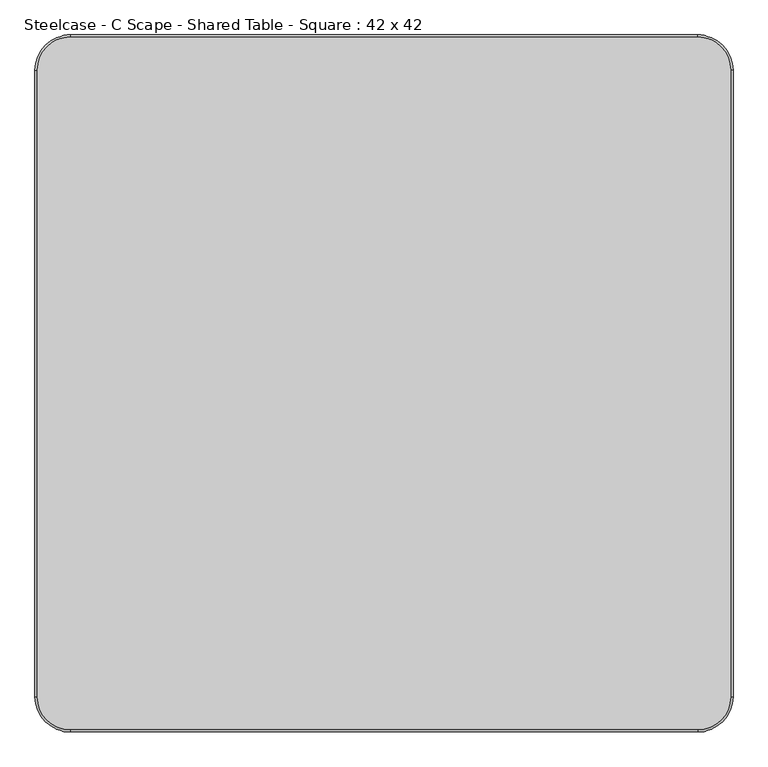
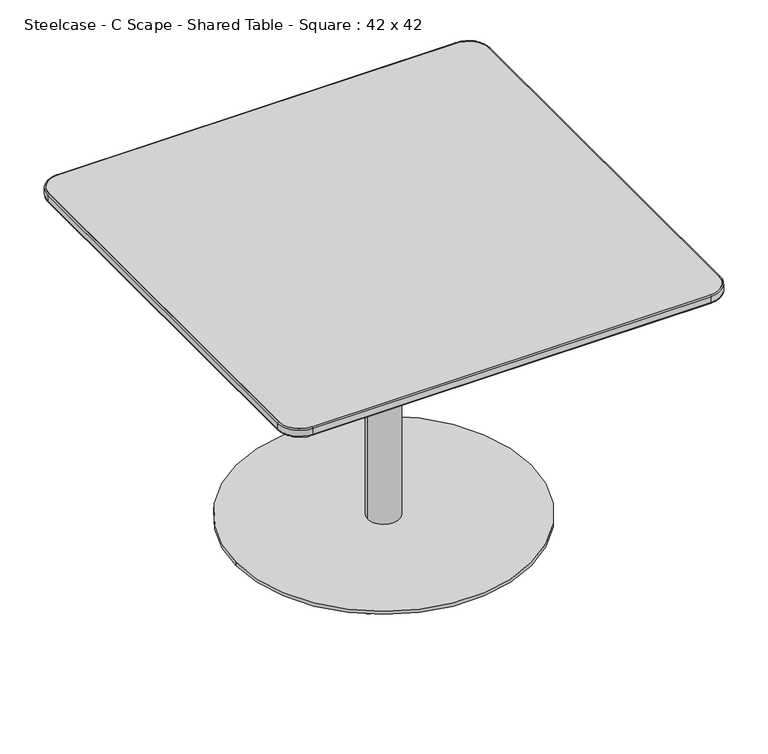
"""IFC4 building model written with IfcOpenShell, lengths in millimetres: furniture geometry, Steelcase - C Scape - Shared Table - Square : 42 x 42."""

from ifc_helpers import new_model, si_unit, point, frame, frame_2d, origin, origin_with_axes, place, context, project, spatial, polyline, circle_curve, ellipse_curve, trimmed, segment, composite_curve, outline, extrude, source, transform, mapped, element, save
from ifc_brep_helpers import plane_surface, cylinder_surface, revolved_surface, spline_surface, advanced_brep


def steelcase_c_scape_shared_table_square_42_x_42_29b82b3a(model_context):
    return source(origin(), model_context, "Body", "SolidModel", [
        extrude(outline(composite_curve([segment(trimmed(circle_curve(frame_2d((538.1169393, -206.3887078)), 19.05), [point((519.0669393, -206.3887078))], [point((557.1669393, -206.3887078))], False, "CARTESIAN"), True, "CONTINUOUS"), segment(trimmed(circle_curve(frame_2d((538.1169393, -206.3887078)), 19.05), [point((557.1669393, -206.3887078))], [point((519.0669393, -206.3887078))], False, "CARTESIAN"), True, "CONTINUOUS")], self_intersect=False)), origin_with_axes(), (0.0, 0.0, 1.0), 4.7752),
        extrude(outline(composite_curve([segment(trimmed(circle_curve(frame_2d((849.5274141, -431.9223889)), 19.05), [point((830.4774141, -431.9223889))], [point((868.5774141, -431.9223889))], False, "CARTESIAN"), True, "CONTINUOUS"), segment(trimmed(circle_curve(frame_2d((849.5274141, -431.9223889)), 19.05), [point((868.5774141, -431.9223889))], [point((830.4774141, -431.9223889))], False, "CARTESIAN"), True, "CONTINUOUS")], self_intersect=False)), origin_with_axes(), (0.0, 0.0, 1.0), 4.7752),
        extrude(outline(composite_curve([segment(trimmed(circle_curve(frame_2d((217.2725859, -431.9223889)), 19.05), [point((198.2225859, -431.9223889))], [point((236.3225859, -431.9223889))], False, "CARTESIAN"), True, "CONTINUOUS"), segment(trimmed(circle_curve(frame_2d((217.2725859, -431.9223889)), 19.05), [point((236.3225859, -431.9223889))], [point((198.2225859, -431.9223889))], False, "CARTESIAN"), True, "CONTINUOUS")], self_intersect=False)), origin_with_axes(), (0.0, 0.0, 1.0), 4.7752),
        extrude(outline(composite_curve([segment(trimmed(circle_curve(frame_2d((343.3814105, -801.3440092)), 19.05), [point((324.3314105, -801.3440092))], [point((362.4314105, -801.3440092))], False, "CARTESIAN"), True, "CONTINUOUS"), segment(trimmed(circle_curve(frame_2d((343.3814105, -801.3440092)), 19.05), [point((362.4314105, -801.3440092))], [point((324.3314105, -801.3440092))], False, "CARTESIAN"), True, "CONTINUOUS")], self_intersect=False)), origin_with_axes(), (0.0, 0.0, 1.0), 4.7752),
        extrude(outline(composite_curve([segment(trimmed(circle_curve(frame_2d((723.4185895, -801.3440092)), 19.05), [point((704.3685895, -801.3440092))], [point((742.4685895, -801.3440092))], False, "CARTESIAN"), True, "CONTINUOUS"), segment(trimmed(circle_curve(frame_2d((723.4185895, -801.3440092)), 19.05), [point((742.4685895, -801.3440092))], [point((704.3685895, -801.3440092))], False, "CARTESIAN"), True, "CONTINUOUS")], self_intersect=False)), origin_with_axes(), (0.0, 0.0, 1.0), 4.7752),
        extrude(outline(polyline([(443.2461817, -627.0451349), (443.2461817, -449.2450865), (621.0460848, -449.2450865), (621.0460848, -627.0451349), (443.2461817, -627.0451349)])), frame((0.0, 0.0, 686.0031853), z_axis=(0.0, 0.0, 1.0), x_axis=(1.0, 0.0, 0.0)), (0.0, 0.0, 1.0), 9.4488147),
        extrude(outline(composite_curve([segment(trimmed(circle_curve(frame_2d((532.60625, -533.4)), 38.1), [point((494.50625, -533.4))], [point((570.70625, -533.4))], False, "CARTESIAN"), True, "CONTINUOUS"), segment(trimmed(circle_curve(frame_2d((532.60625, -533.4)), 38.1), [point((570.70625, -533.4))], [point((494.50625, -533.4))], False, "CARTESIAN"), True, "CONTINUOUS")], self_intersect=False)), frame((0.0, 0.0, 12.7), z_axis=(0.0, 0.0, 1.0), x_axis=(1.0, 0.0, 0.0)), (0.0, 0.0, 1.0), 673.3031853),
        extrude(outline(composite_curve([segment(trimmed(circle_curve(frame_2d((533.4, -533.4)), 355.6), [point((177.8, -533.4))], [point((889.0, -533.4))], False, "CARTESIAN"), True, "CONTINUOUS"), segment(trimmed(circle_curve(frame_2d((533.4, -533.4)), 355.6), [point((889.0, -533.4))], [point((177.8, -533.4))], False, "CARTESIAN"), True, "CONTINUOUS")], self_intersect=False)), frame((0.0, 0.0, 4.7752), z_axis=(0.0, 0.0, 1.0), x_axis=(1.0, 0.0, 0.0)), (0.0, 0.0, 1.0), 7.9248),
        advanced_brep(
        [(-0.1222812, -55.3389673, 705.9399771), (53.6749195, -1.5417665, 705.9399771), (53.6749195, -4.5389673, 703.453), (2.8749195, -55.3389673, 703.453), (-0.1222812, -55.3389673, 720.9027992), (53.6749195, -1.5417665, 720.9027992), (2.8749195, -55.3389673, 723.9), (53.6749195, -4.5389673, 723.9), (2.8749195, -1013.0027992, 703.453), (-0.1222812, -1013.0027992, 705.9399771), (-0.1222812, -1013.0027992, 720.9027992), (2.8749195, -1013.0027992, 723.9), (1066.9222812, -1013.0027992, 705.9399771), (1063.9250805, -1013.0027992, 703.453), (1063.9250805, -55.3389673, 703.453), (1066.9222812, -55.3389673, 705.9399771), (1066.9222812, -1013.0027992, 720.9027992), (1066.9222812, -55.3389673, 720.9027992), (1063.9250805, -1013.0027992, 723.9), (1063.9250805, -55.3389673, 723.9), (1013.1250805, -1.5417665, 705.9399771), (1013.1250805, -4.5389673, 703.453), (1013.1250805, -1.5417665, 720.9027992), (1013.1250805, -4.5389673, 723.9), (53.6749195, -1066.8, 705.9399771), (53.6749195, -1063.8027992, 703.453), (53.6749195, -1066.8, 720.9027992), (53.6749195, -1063.8027992, 723.9), (1013.1250805, -1063.8027992, 703.453), (1013.1250805, -1066.8, 705.9399771), (1013.1250805, -1066.8, 720.9027992), (1013.1250805, -1063.8027992, 723.9)],
        [
            (0, 1, circle_curve(frame((53.6749195, -55.3389673, 705.9399771), z_axis=(0.0, 0.0, -1.0), x_axis=(0.0, 1.0, 0.0)), 53.7972008)),
            (1, 2, circle_curve(frame((53.6749195, -4.0721722, 705.9399771), z_axis=(-1.0, 0.0, 0.0), x_axis=(0.0, -1.0, 0.0)), 2.5304056)),
            (2, 3, circle_curve(frame((53.6749195, -55.3389673, 703.453), z_axis=(0.0, 0.0, 1.0), x_axis=(0.0, 1.0, 0.0)), 50.8)),
            (3, 0, circle_curve(frame((2.4081244, -55.3389673, 705.9399771), z_axis=(0.0, 1.0, 0.0), x_axis=(1.0, 0.0, 0.0)), 2.5304056)),
            (4, 5, circle_curve(frame((53.6749195, -55.3389673, 720.9027992), z_axis=(0.0, 0.0, -1.0), x_axis=(0.0, 1.0, 0.0)), 53.7972008)),
            (5, 1),
            (0, 4),
            (6, 7, circle_curve(frame((53.6749195, -55.3389673, 723.9), z_axis=(0.0, 0.0, -1.0), x_axis=(0.0, 1.0, 0.0)), 50.8)),
            (7, 5, circle_curve(frame((53.6749195, -4.5389673, 720.9027992), z_axis=(-1.0, 0.0, 0.0), x_axis=(0.0, -1.0, 0.0)), 2.9972008)),
            (4, 6, circle_curve(frame((2.8749195, -55.3389673, 720.9027992), z_axis=(0.0, 1.0, 0.0), x_axis=(1.0, 0.0, 0.0)), 2.9972008)),
            (2, 7),
            (6, 3),
            (3, 8),
            (8, 9, circle_curve(frame((2.4081244, -1013.0027992, 705.9399771), z_axis=(0.0, 1.0, 0.0), x_axis=(1.0, 0.0, 0.0)), 2.5304056)),
            (9, 0),
            (9, 10),
            (10, 4),
            (10, 11, circle_curve(frame((2.8749195, -1013.0027992, 720.9027992), z_axis=(0.0, 1.0, 0.0), x_axis=(1.0, 0.0, 0.0)), 2.9972008)),
            (11, 6),
            (11, 8),
            (12, 13, circle_curve(frame((1064.3918756, -1013.0027992, 705.9399771), z_axis=(0.0, 1.0, 0.0), x_axis=(-1.0, 0.0, 0.0)), 2.5304056)),
            (13, 14),
            (14, 15, circle_curve(frame((1064.3918756, -55.3389673, 705.9399771), z_axis=(0.0, -1.0, 0.0), x_axis=(-1.0, 0.0, 0.0)), 2.5304056)),
            (15, 12),
            (16, 12),
            (15, 17),
            (17, 16),
            (18, 16, circle_curve(frame((1063.9250805, -1013.0027992, 720.9027992), z_axis=(0.0, 1.0, 0.0), x_axis=(-1.0, 0.0, 0.0)), 2.9972008)),
            (17, 19, circle_curve(frame((1063.9250805, -55.3389673, 720.9027992), z_axis=(0.0, -1.0, 0.0), x_axis=(-1.0, 0.0, 0.0)), 2.9972008)),
            (19, 18),
            (13, 18),
            (19, 14),
            (20, 15, circle_curve(frame((1013.1250805, -55.3389673, 705.9399771), z_axis=(0.0, 0.0, -1.0), x_axis=(1.0, 0.0, 0.0)), 53.7972008)),
            (14, 21, circle_curve(frame((1013.1250805, -55.3389673, 703.453), z_axis=(0.0, 0.0, 1.0), x_axis=(1.0, 0.0, 0.0)), 50.8)),
            (21, 20, circle_curve(frame((1013.1250805, -4.0721722, 705.9399771), z_axis=(1.0, 0.0, 0.0), x_axis=(0.0, -1.0, 0.0)), 2.5304056)),
            (22, 17, circle_curve(frame((1013.1250805, -55.3389673, 720.9027992), z_axis=(0.0, 0.0, -1.0), x_axis=(1.0, 0.0, 0.0)), 53.7972008)),
            (20, 22),
            (23, 19, circle_curve(frame((1013.1250805, -55.3389673, 723.9), z_axis=(0.0, 0.0, -1.0), x_axis=(1.0, 0.0, 0.0)), 50.8)),
            (22, 23, circle_curve(frame((1013.1250805, -4.5389673, 720.9027992), z_axis=(1.0, 0.0, 0.0), x_axis=(0.0, -1.0, 0.0)), 2.9972008)),
            (23, 21),
            (21, 2),
            (1, 20),
            (5, 22),
            (7, 23),
            (24, 9, circle_curve(frame((53.6749195, -1013.0027992, 705.9399771), z_axis=(0.0, 0.0, -1.0), x_axis=(-1.0, 0.0, 0.0)), 53.7972008)),
            (8, 25, circle_curve(frame((53.6749195, -1013.0027992, 703.453), z_axis=(0.0, 0.0, 1.0), x_axis=(-1.0, 0.0, 0.0)), 50.8)),
            (25, 24, circle_curve(frame((53.6749195, -1064.2695944, 705.9399771), z_axis=(-1.0, 0.0, 0.0), x_axis=(0.0, 1.0, 0.0)), 2.5304056)),
            (26, 10, circle_curve(frame((53.6749195, -1013.0027992, 720.9027992), z_axis=(0.0, 0.0, -1.0), x_axis=(-1.0, 0.0, 0.0)), 53.7972008)),
            (24, 26),
            (27, 11, circle_curve(frame((53.6749195, -1013.0027992, 723.9), z_axis=(0.0, 0.0, -1.0), x_axis=(-1.0, 0.0, 0.0)), 50.8)),
            (26, 27, circle_curve(frame((53.6749195, -1063.8027992, 720.9027992), z_axis=(-1.0, 0.0, 0.0), x_axis=(0.0, 1.0, 0.0)), 2.9972008)),
            (27, 25),
            (25, 28),
            (28, 29, circle_curve(frame((1013.1250805, -1064.2695944, 705.9399771), z_axis=(-1.0, 0.0, 0.0), x_axis=(0.0, 1.0, 0.0)), 2.5304056)),
            (29, 24),
            (29, 30),
            (30, 26),
            (30, 31, circle_curve(frame((1013.1250805, -1063.8027992, 720.9027992), z_axis=(-1.0, 0.0, 0.0), x_axis=(0.0, 1.0, 0.0)), 2.9972008)),
            (31, 27),
            (31, 28),
            (12, 29, circle_curve(frame((1013.1250805, -1013.0027992, 705.9399771), z_axis=(0.0, 0.0, -1.0), x_axis=(0.0, -1.0, 0.0)), 53.7972008)),
            (28, 13, circle_curve(frame((1013.1250805, -1013.0027992, 703.453), z_axis=(0.0, 0.0, 1.0), x_axis=(0.0, -1.0, 0.0)), 50.8)),
            (16, 30, circle_curve(frame((1013.1250805, -1013.0027992, 720.9027992), z_axis=(0.0, 0.0, -1.0), x_axis=(0.0, -1.0, 0.0)), 53.7972008)),
            (18, 31, circle_curve(frame((1013.1250805, -1013.0027992, 723.9), z_axis=(0.0, 0.0, -1.0), x_axis=(0.0, -1.0, 0.0)), 50.8)),
        ],
        [
            revolved_surface(trimmed(ellipse_curve(frame((53.6749195, -4.0721722, 705.9399771), z_axis=(1.0, 0.0, 0.0), x_axis=(0.0, -1.0, 0.0)), 2.5304056, 2.5304056), [point((53.6749195, -4.5389673, 703.453))], [point((53.6749195, -1.5417665, 705.9399771))], True, "CARTESIAN"), (53.6749195, -55.3389673, 703.453), (0.0, 0.0, 1.0)),
            cylinder_surface(frame((53.6749195, -55.3389673, 703.453), z_axis=(0.0, 0.0, 1.0), x_axis=(0.0, 1.0, 0.0)), 53.7972008),
            revolved_surface(trimmed(ellipse_curve(frame((53.6749195, -4.5389673, 720.9027992), z_axis=(1.0, 0.0, 0.0), x_axis=(0.0, -1.0, 0.0)), 2.9972008, 2.9972008), [point((53.6749195, -1.5417665, 720.9027992))], [point((53.6749195, -4.5389673, 723.9))], True, "CARTESIAN"), (53.6749195, -55.3389673, 703.453), (0.0, 0.0, 1.0)),
            revolved_surface(polyline([(53.6749195, -4.538967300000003, 723.9), (53.6749195, -4.538967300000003, 703.453)]), (53.6749195, -55.3389673, 703.453), (0.0, 0.0, 1.0)),
            cylinder_surface(frame((2.4081244, -55.3389673, 705.9399771), z_axis=(0.0, 1.0, 0.0), x_axis=(1.0, 0.0, 0.0)), 2.5304056),
            plane_surface(frame((-0.1222812, -55.3389673, 705.9399771), z_axis=(-1.0, 0.0, 0.0), x_axis=(0.0, -1.0, 0.0))),
            cylinder_surface(frame((2.8749195, -55.3389673, 720.9027992), z_axis=(0.0, 1.0, 0.0), x_axis=(1.0, 0.0, 0.0)), 2.9972008),
            plane_surface(frame((2.8749195, -55.3389673, 723.9), z_axis=(1.0, 0.0, 0.0), x_axis=(0.0, -1.0, 0.0))),
            cylinder_surface(frame((1064.3918756, -1013.0027992, 705.9399771), z_axis=(0.0, -1.0, 0.0), x_axis=(-1.0, 0.0, 0.0)), 2.5304056),
            plane_surface(frame((1066.9222812, -1013.0027992, 705.9399771), z_axis=(1.0, 0.0, 0.0), x_axis=(0.0, 1.0, 0.0))),
            cylinder_surface(frame((1063.9250805, -1013.0027992, 720.9027992), z_axis=(0.0, -1.0, 0.0), x_axis=(-1.0, 0.0, 0.0)), 2.9972008),
            plane_surface(frame((1063.9250805, -1013.0027992, 723.9), z_axis=(-1.0, 0.0, 0.0), x_axis=(0.0, 1.0, 0.0))),
            revolved_surface(trimmed(ellipse_curve(frame((1064.3918756, -55.3389673, 705.9399771), z_axis=(0.0, -1.0, 0.0), x_axis=(-1.0, 0.0, 0.0)), 2.5304056, 2.5304056), [point((1063.9250805, -55.3389673, 703.453))], [point((1066.9222812, -55.3389673, 705.9399771))], True, "CARTESIAN"), (1013.1250805, -55.3389673, 703.453), (0.0, 0.0, 1.0)),
            cylinder_surface(frame((1013.1250805, -55.3389673, 703.453), z_axis=(0.0, 0.0, 1.0), x_axis=(1.0, 0.0, 0.0)), 53.7972008),
            revolved_surface(trimmed(ellipse_curve(frame((1063.9250805, -55.3389673, 720.9027992), z_axis=(0.0, -1.0, 0.0), x_axis=(-1.0, 0.0, 0.0)), 2.9972008, 2.9972008), [point((1066.9222812, -55.3389673, 720.9027992))], [point((1063.9250805, -55.3389673, 723.9))], True, "CARTESIAN"), (1013.1250805, -55.3389673, 703.453), (0.0, 0.0, 1.0)),
            revolved_surface(polyline([(1063.9250805, -55.3389673, 723.9), (1063.9250805, -55.3389673, 703.453)]), (1013.1250805, -55.3389673, 703.453), (0.0, 0.0, 1.0)),
            cylinder_surface(frame((1013.1250805, -4.0721722, 705.9399771), z_axis=(1.0, 0.0, 0.0), x_axis=(0.0, -1.0, 0.0)), 2.5304056),
            plane_surface(frame((1013.1250805, -1.5417665, 705.9399771), z_axis=(0.0, 1.0, 0.0), x_axis=(-1.0, 0.0, 0.0))),
            cylinder_surface(frame((1013.1250805, -4.5389673, 720.9027992), z_axis=(1.0, 0.0, 0.0), x_axis=(0.0, -1.0, 0.0)), 2.9972008),
            plane_surface(frame((1013.1250805, -4.5389673, 723.9), z_axis=(0.0, -1.0, 0.0), x_axis=(-1.0, 0.0, 0.0))),
            revolved_surface(trimmed(ellipse_curve(frame((2.4081244, -1013.0027992, 705.9399771), z_axis=(0.0, 1.0, 0.0), x_axis=(1.0, 0.0, 0.0)), 2.5304056, 2.5304056), [point((2.8749195, -1013.0027992, 703.453))], [point((-0.1222812, -1013.0027992, 705.9399771))], True, "CARTESIAN"), (53.6749195, -1013.0027992, 703.453), (0.0, 0.0, 1.0)),
            cylinder_surface(frame((53.6749195, -1013.0027992, 703.453), z_axis=(0.0, 0.0, 1.0), x_axis=(-1.0, 0.0, 0.0)), 53.7972008),
            revolved_surface(trimmed(ellipse_curve(frame((2.8749195, -1013.0027992, 720.9027992), z_axis=(0.0, 1.0, 0.0), x_axis=(1.0, 0.0, 0.0)), 2.9972008, 2.9972008), [point((-0.1222812, -1013.0027992, 720.9027992))], [point((2.8749195, -1013.0027992, 723.9))], True, "CARTESIAN"), (53.6749195, -1013.0027992, 703.453), (0.0, 0.0, 1.0)),
            revolved_surface(polyline([(2.8749195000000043, -1013.0027992, 723.9), (2.8749195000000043, -1013.0027992, 703.453)]), (53.6749195, -1013.0027992, 703.453), (0.0, 0.0, 1.0)),
            cylinder_surface(frame((53.6749195, -1064.2695944, 705.9399771), z_axis=(-1.0, 0.0, 0.0), x_axis=(0.0, 1.0, 0.0)), 2.5304056),
            plane_surface(frame((53.6749195, -1066.8, 705.9399771), z_axis=(0.0, -1.0, 0.0), x_axis=(1.0, 0.0, 0.0))),
            cylinder_surface(frame((53.6749195, -1063.8027992, 720.9027992), z_axis=(-1.0, 0.0, 0.0), x_axis=(0.0, 1.0, 0.0)), 2.9972008),
            plane_surface(frame((53.6749195, -1063.8027992, 723.9), z_axis=(0.0, 1.0, 0.0), x_axis=(1.0, 0.0, 0.0))),
            revolved_surface(trimmed(ellipse_curve(frame((1013.1250805, -1064.2695944, 705.9399771), z_axis=(-1.0, 0.0, 0.0), x_axis=(0.0, 1.0, 0.0)), 2.5304056, 2.5304056), [point((1013.1250805, -1063.8027992, 703.453))], [point((1013.1250805, -1066.8, 705.9399771))], True, "CARTESIAN"), (1013.1250805, -1013.0027992, 703.453), (0.0, 0.0, 1.0)),
            cylinder_surface(frame((1013.1250805, -1013.0027992, 703.453), z_axis=(0.0, 0.0, 1.0), x_axis=(0.0, -1.0, 0.0)), 53.7972008),
            revolved_surface(trimmed(ellipse_curve(frame((1013.1250805, -1063.8027992, 720.9027992), z_axis=(-1.0, 0.0, 0.0), x_axis=(0.0, 1.0, 0.0)), 2.9972008, 2.9972008), [point((1013.1250805, -1066.8, 720.9027992))], [point((1013.1250805, -1063.8027992, 723.9))], True, "CARTESIAN"), (1013.1250805, -1013.0027992, 703.453), (0.0, 0.0, 1.0)),
            revolved_surface(polyline([(1013.1250805, -1063.8027992, 723.9), (1013.1250805, -1063.8027992, 703.453)]), (1013.1250805, -1013.0027992, 703.453), (0.0, 0.0, 1.0)),
        ],
        [
            (0, [[1, 2, 3, 4]]),
            (1, [[5, 6, -1, 7]]),
            (2, [[8, 9, -5, 10]]),
            (3, [[-3, 11, -8, 12]]),
            (4, [[-4, 13, 14, 15]]),
            (5, [[-7, -15, 16, 17]]),
            (6, [[-10, -17, 18, 19]]),
            (7, [[-12, -19, 20, -13]]),
            (8, [[21, 22, 23, 24]]),
            (9, [[25, -24, 26, 27]]),
            (10, [[28, -27, 29, 30]]),
            (11, [[31, -30, 32, -22]]),
            (12, [[33, -23, 34, 35]]),
            (13, [[36, -26, -33, 37]]),
            (14, [[38, -29, -36, 39]]),
            (15, [[-34, -32, -38, 40]]),
            (16, [[-35, 41, -2, 42]]),
            (17, [[-37, -42, -6, 43]]),
            (18, [[-39, -43, -9, 44]]),
            (19, [[-40, -44, -11, -41]]),
            (20, [[45, -14, 46, 47]]),
            (21, [[48, -16, -45, 49]]),
            (22, [[50, -18, -48, 51]]),
            (23, [[-46, -20, -50, 52]]),
            (24, [[-47, 53, 54, 55]]),
            (25, [[-49, -55, 56, 57]]),
            (26, [[-51, -57, 58, 59]]),
            (27, [[-52, -59, 60, -53]]),
            (28, [[61, -54, 62, -21]]),
            (29, [[63, -56, -61, -25]]),
            (30, [[64, -58, -63, -28]]),
            (31, [[-62, -60, -64, -31]]),
        ],
    ),
        extrude(outline(composite_curve([segment(polyline([(2.8749195, -1013.0027992), (2.8749195, -55.3389673)]), True, "CONTINUOUS"), segment(trimmed(circle_curve(frame_2d((53.6749195, -55.3389673)), 50.8), [point((2.8749195, -55.3389673))], [point((53.6749195, -4.5389673))], False, "CARTESIAN"), True, "CONTINUOUS"), segment(polyline([(53.6749195, -4.5389673), (1013.1250805, -4.5389673)]), True, "CONTINUOUS"), segment(trimmed(circle_curve(frame_2d((1013.1250805, -55.3389673)), 50.8), [point((1013.1250805, -4.5389673))], [point((1063.9250805, -55.3389673))], False, "CARTESIAN"), True, "CONTINUOUS"), segment(polyline([(1063.9250805, -55.3389673), (1063.9250805, -1013.0027992)]), True, "CONTINUOUS"), segment(trimmed(circle_curve(frame_2d((1013.1250805, -1013.0027992)), 50.8), [point((1063.9250805, -1013.0027992))], [point((1013.1250805, -1063.8027992))], False, "CARTESIAN"), True, "CONTINUOUS"), segment(polyline([(1013.1250805, -1063.8027992), (53.6749195, -1063.8027992)]), True, "CONTINUOUS"), segment(trimmed(circle_curve(frame_2d((53.6749195, -1013.0027992)), 50.8), [point((53.6749195, -1063.8027992))], [point((2.8749195, -1013.0027992))], False, "CARTESIAN"), True, "CONTINUOUS")], self_intersect=False)), frame((0.0, 0.0, 703.453), z_axis=(0.0, 0.0, 1.0), x_axis=(1.0, 0.0, 0.0)), (0.0, 0.0, 1.0), 20.447),
        advanced_brep(
        [(1063.9250805, -55.3389673, 703.453), (1013.1250805, -4.5389673, 703.453), (53.6749195, -4.5389673, 703.453), (2.8749195, -55.3389673, 703.453), (2.8749195, -1013.0027992, 703.453), (53.6749195, -1063.8027992, 703.453), (1013.1250805, -1063.8027992, 703.453), (1063.9250805, -1013.0027992, 703.453), (1009.2729157, -52.7989673, 693.928), (1009.2729157, -1016.026791, 693.928), (57.5270843, -1016.026791, 693.928), (57.5270843, -52.7989673, 693.928)],
        [
            (0, 1, circle_curve(frame((1013.1250805, -55.3389673, 703.453), z_axis=(0.0, 0.0, 1.0), x_axis=(1.0, 0.0, 0.0)), 50.8)),
            (1, 2),
            (2, 3, circle_curve(frame((53.6749195, -55.3389673, 703.453), z_axis=(0.0, 0.0, 1.0), x_axis=(1.0, 0.0, 0.0)), 50.8)),
            (3, 4),
            (4, 5, circle_curve(frame((53.6749195, -1013.0027992, 703.453), z_axis=(0.0, 0.0, 1.0), x_axis=(1.0, 0.0, 0.0)), 50.8)),
            (5, 6),
            (6, 7, circle_curve(frame((1013.1250805, -1013.0027992, 703.453), z_axis=(0.0, 0.0, 1.0), x_axis=(1.0, 0.0, 0.0)), 50.8)),
            (7, 0),
            (8, 9),
            (9, 10),
            (10, 11),
            (11, 8),
            (0, 8),
            (8, 1),
            (2, 11),
            (11, 3),
            (4, 10),
            (10, 5),
            (6, 9),
            (9, 7),
        ],
        [
            plane_surface(frame((533.4, -534.1708833, 703.453), z_axis=(0.0, 0.0, 1.0), x_axis=(-1.0, 0.0, 0.0))),
            plane_surface(frame((533.4, -534.4128792, 693.928), z_axis=(0.0, 0.0, -1.0), x_axis=(-1.0, 0.0, 0.0))),
            spline_surface(2, 1, [[(1009.2729157, -52.7989673, 693.928), (1063.9250805, -55.3389673, 703.453)], [(1009.2729157, -52.7989673, 693.928), (1063.9250805, -4.538967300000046, 703.453)], [(1009.2729157, -52.7989673, 693.928), (1013.1250805, -4.5389673, 703.453)]], [3, 3], [2, 2], [0.0, 1.0], [0.0, 1.0], weights=[[1.0, 1.0], [0.7071067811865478, 0.7071067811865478], [1.0, 1.0]]),
            spline_surface(2, 1, [[(57.5270843, -52.7989673, 693.928), (53.6749195, -4.5389673, 703.453)], [(57.5270843, -52.7989673, 693.928), (2.8749195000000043, -4.538967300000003, 703.453)], [(57.5270843, -52.7989673, 693.928), (2.8749195, -55.3389673, 703.453)]], [3, 3], [2, 2], [0.0, 1.0], [0.0, 1.0], weights=[[1.0, 1.0], [0.7071067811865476, 0.7071067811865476], [1.0, 1.0]]),
            spline_surface(2, 1, [[(57.5270843, -1016.026791, 693.928), (2.8749195, -1013.0027992, 703.453)], [(57.5270843, -1016.026791, 693.928), (2.8749194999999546, -1063.8027992, 703.453)], [(57.5270843, -1016.026791, 693.928), (53.6749195, -1063.8027992, 703.453)]], [3, 3], [2, 2], [0.0, 1.0], [0.0, 1.0], weights=[[1.0, 1.0], [0.7071067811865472, 0.7071067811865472], [1.0, 1.0]]),
            spline_surface(2, 1, [[(1009.2729157, -1016.026791, 693.928), (1013.1250805, -1063.8027992, 703.453)], [(1009.2729157, -1016.026791, 693.928), (1063.9250805, -1063.8027992, 703.453)], [(1009.2729157, -1016.026791, 693.928), (1063.9250805, -1013.0027992, 703.453)]], [3, 3], [2, 2], [0.0, 1.0], [0.0, 1.0], weights=[[1.0, 1.0], [0.7071067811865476, 0.7071067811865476], [1.0, 1.0]]),
            plane_surface(frame((533.4, -52.7989673, 693.928), z_axis=(0.0, 0.1936330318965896, -0.9810740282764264), x_axis=(-1.0, 0.0, 0.0))),
            plane_surface(frame((57.5270843, -534.4128792, 693.928), z_axis=(-0.17169591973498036, 0.0, -0.9851499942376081), x_axis=(0.0, -1.0, 0.0))),
            plane_surface(frame((533.4, -1016.026791, 693.928), z_axis=(0.0, -0.19551999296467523, -0.9806997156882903), x_axis=(1.0, 0.0, 0.0))),
            plane_surface(frame((1009.2729157, -534.4128792, 693.928), z_axis=(0.17169591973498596, 0.0, -0.9851499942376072), x_axis=(0.0, 1.0, 0.0))),
        ],
        [
            (0, [[1, 2, 3, 4, 5, 6, 7, 8]]),
            (1, [[9, 10, 11, 12]]),
            (2, [[-1, 13, 14]]),
            (3, [[-3, 15, 16]]),
            (4, [[-5, 17, 18]]),
            (5, [[-7, 19, 20]]),
            (6, [[-12, -15, -2, -14]]),
            (7, [[-11, -17, -4, -16]]),
            (8, [[-10, -19, -6, -18]]),
            (9, [[-9, -13, -8, -20]]),
        ],
    ),
    ])


if __name__ == "__main__":
    model = new_model("IFC4")
    model_context = context("Model", 3, world=origin())
    ifc_project = project(units=[si_unit("LENGTHUNIT", "METRE", prefix="MILLI")], contexts=[model_context])
    site = spatial("IfcSite", under=ifc_project)
    building = spatial("IfcBuilding", under=site)
    placement = place(None, origin())
    steelcase_c_scape_shared_table_square_42_x_42_shape = steelcase_c_scape_shared_table_square_42_x_42_29b82b3a(model_context)
    element("IfcFurniture", 1, ObjectType="Steelcase - C Scape - Shared Table - Square : 42 x 42", at=placement, inside=building, context=model_context, shape_type="MappedRepresentation", body=[
        mapped(steelcase_c_scape_shared_table_square_42_x_42_shape, transform((0.0, 0.0, 0.0), x_axis=(1.0, 0.0, 0.0), y_axis=(0.0, 1.0, 0.0), z_axis=(0.0, 0.0, 1.0))),
    ])
    save(model, "model.ifc")
